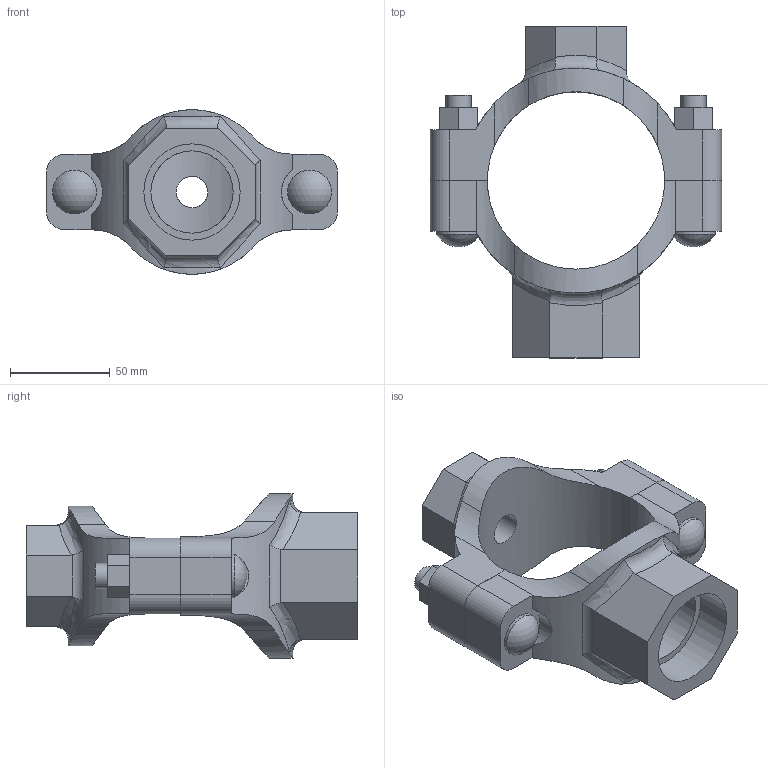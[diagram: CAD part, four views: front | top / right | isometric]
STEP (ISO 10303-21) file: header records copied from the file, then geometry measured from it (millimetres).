
FILE_DESCRIPTION(/* description */ ('VIC MECH-T BRANCH OUTLET CROSS STYLE 920N (THD)','CAx-IF Rec.Pracs.---Representation and Presentation of Product Manufacturing Information (PMI)---4.0---2014-10-13'),/* implementation_level */ '2;1');
FILE_NAME(/* name */ 'C:\Users\Vjadhav\AppData\Roaming\Autodesk\ApplicationPlugins\Back Up\Victaulic_IPS_Mechanical-Cross Outlet_Style 920N (FPT)\Victaulic_IPS_Mechanical-Cross Outlet_03.0x0.5x01.5 (80x15x40).stp',/* time_stamp */ '2020-08-06T18:57:11+05:00',/* author */ ('Vjadhav'),/* organization */ ('Victaulic'),/* preprocessor_version */ 'ST-DEVELOPER v17.2',/* originating_system */ 'Autodesk Inventor 2019',/* authorisation */ '');
FILE_SCHEMA (('AP242_MANAGED_MODEL_BASED_3D_ENGINEERING_MIM_LF { 1 0 10303 442 1 1 4 }'));
Length unit declared in the file: inch
Products named in the file (3): 920NT-03.0x0.5x01.5; 920NT-03.0x0.5; 920NT-03.0x01.5
Assembly tree (2 placements, depth 2):
  920NT-03.0x0.5x01.5
    920NT-03.0x0.5
    920NT-03.0x01.5
Bounding box: 146.05 x 166.37 x 82.55 mm (x, y, z)
Volume: 349108.2 mm3; surface area: 79788.2 mm2
Topology: 2 solids, 2 shells, 132 faces, 350 edges, 236 vertices
Faces by surface type: plane 68, cylinder 50, bspline 8, torus 4, sphere 2
Full cylindrical faces by diameter (mm): 12.7 x4, 15.799 x1, 21.336 x1, 21.982 x2, 41.275 x1, 48.26 x1
Entity records: 5132 total; most frequent: CARTESIAN_POINT 1619, ORIENTED_EDGE 700, DIRECTION 648, EDGE_CURVE 350, VERTEX_POINT 236, AXIS2_PLACEMENT_3D 231, LINE 186, VECTOR 186
